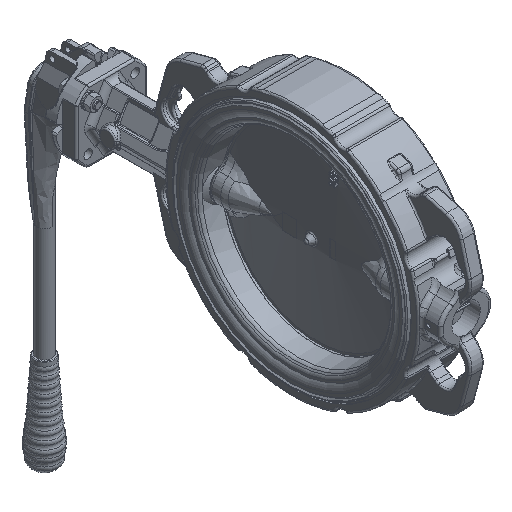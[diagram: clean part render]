
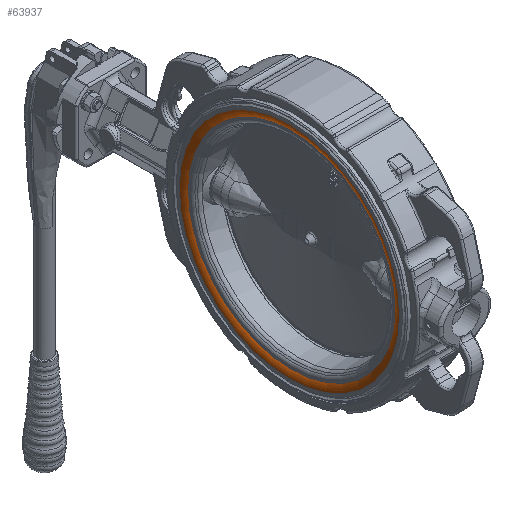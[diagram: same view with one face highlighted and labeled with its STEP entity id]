
A CAD part, isometric view. The second image highlights one B-rep face of the part: STEP entity #63937.
In plain terms, the highlighted toroidal (fillet/blend) face has major radius 116.331 mm and minor radius 12 mm.
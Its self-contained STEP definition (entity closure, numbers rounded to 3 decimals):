
#63910=CARTESIAN_POINT('',(-20.5,0.,0.));
#63911=DIRECTION('',(1.0,0.0,0.0));
#63912=DIRECTION('',(0.0,0.0,-1.0));
#63913=AXIS2_PLACEMENT_3D('',#63910,#63911,#63912);
#63914=TOROIDAL_SURFACE('',#63913,116.331,12.);
#63915=CARTESIAN_POINT('',(-32.5,0.,-116.331));
#63916=VERTEX_POINT('',#63915);
#63917=CARTESIAN_POINT('',(-32.5,0.,0.));
#63918=DIRECTION('',(1.0,0.0,0.0));
#63919=DIRECTION('',(0.0,0.0,-1.0));
#63920=AXIS2_PLACEMENT_3D('',#63917,#63918,#63919);
#63921=CIRCLE('',#63920,116.331);
#63922=EDGE_CURVE('',#63916,#63916,#63921,.T.);
#63923=ORIENTED_EDGE('',*,*,#63922,.F.);
#63924=EDGE_LOOP('',(#63923));
#63925=FACE_OUTER_BOUND('',#63924,.T.);
#63926=CARTESIAN_POINT('',(-30.,0.,-109.));
#63927=VERTEX_POINT('',#63926);
#63928=CARTESIAN_POINT('',(-30.,0.,0.));
#63929=DIRECTION('',(1.0,0.0,0.0));
#63930=DIRECTION('',(0.0,0.0,-1.0));
#63931=AXIS2_PLACEMENT_3D('',#63928,#63929,#63930);
#63932=CIRCLE('',#63931,109.);
#63933=EDGE_CURVE('',#63927,#63927,#63932,.T.);
#63934=ORIENTED_EDGE('',*,*,#63933,.T.);
#63935=EDGE_LOOP('',(#63934));
#63936=FACE_BOUND('',#63935,.T.);
#63937=ADVANCED_FACE('',(#63925,#63936),#63914,.T.);
